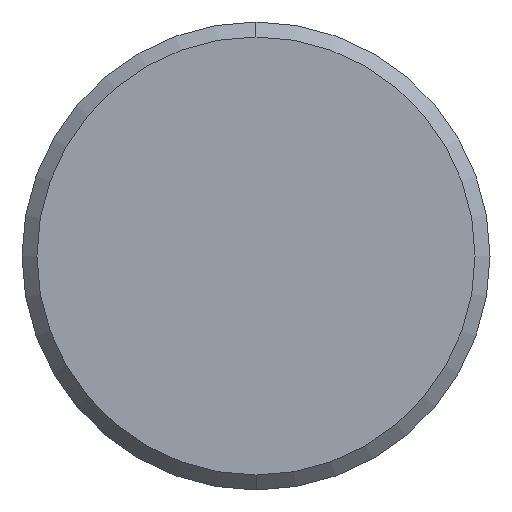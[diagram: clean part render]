
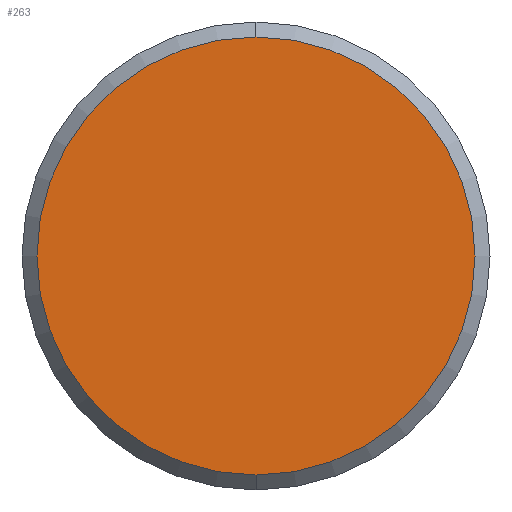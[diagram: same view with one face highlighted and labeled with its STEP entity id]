
A CAD part, left-side view. The second image highlights one B-rep face of the part: STEP entity #263.
In plain terms, the highlighted planar face has unit normal (-1, 0, 0).
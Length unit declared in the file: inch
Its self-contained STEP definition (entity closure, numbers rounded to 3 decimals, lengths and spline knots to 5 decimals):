
#6 = ORIENTED_EDGE ( 'NONE', *, *, #108, .T. ) ;
#10 = CARTESIAN_POINT ( 'NONE',  ( 0., 0., -0.0585 ) ) ;
#13 = ORIENTED_EDGE ( 'NONE', *, *, #169, .T. ) ;
#25 = DIRECTION ( 'NONE',  ( 0., 0., 1. ) ) ;
#26 = CARTESIAN_POINT ( 'NONE',  ( 0., 0., 0. ) ) ;
#31 = PLANE ( 'NONE',  #285 ) ;
#64 = CARTESIAN_POINT ( 'NONE',  ( 0., 0., 0. ) ) ;
#68 = CIRCLE ( 'NONE', #90, 0.0585 ) ;
#90 = AXIS2_PLACEMENT_3D ( 'NONE', #26, #353, #350 ) ;
#108 = EDGE_CURVE ( 'NONE', #380, #279, #148, .T. ) ;
#117 = CARTESIAN_POINT ( 'NONE',  ( 0., 0., 0. ) ) ;
#125 = CARTESIAN_POINT ( 'NONE',  ( 0., 0., 0.0585 ) ) ;
#148 = CIRCLE ( 'NONE', #254, 0.0585 ) ;
#169 = EDGE_CURVE ( 'NONE', #279, #380, #68, .T. ) ;
#176 = DIRECTION ( 'NONE',  ( -1., 0., 0. ) ) ;
#195 = FACE_OUTER_BOUND ( 'NONE', #245, .T. ) ;
#245 = EDGE_LOOP ( 'NONE', ( #6, #13 ) ) ;
#254 = AXIS2_PLACEMENT_3D ( 'NONE', #117, #176, #25 ) ;
#258 = DIRECTION ( 'NONE',  ( 0., 0., 1. ) ) ;
#263 = ADVANCED_FACE ( 'NONE', ( #195 ), #31, .T. ) ;
#279 = VERTEX_POINT ( 'NONE', #125 ) ;
#281 = DIRECTION ( 'NONE',  ( -1., 0., 0. ) ) ;
#285 = AXIS2_PLACEMENT_3D ( 'NONE', #64, #281, #258 ) ;
#350 = DIRECTION ( 'NONE',  ( 0., 0., 1. ) ) ;
#353 = DIRECTION ( 'NONE',  ( -1., 0., 0. ) ) ;
#380 = VERTEX_POINT ( 'NONE', #10 ) ;
